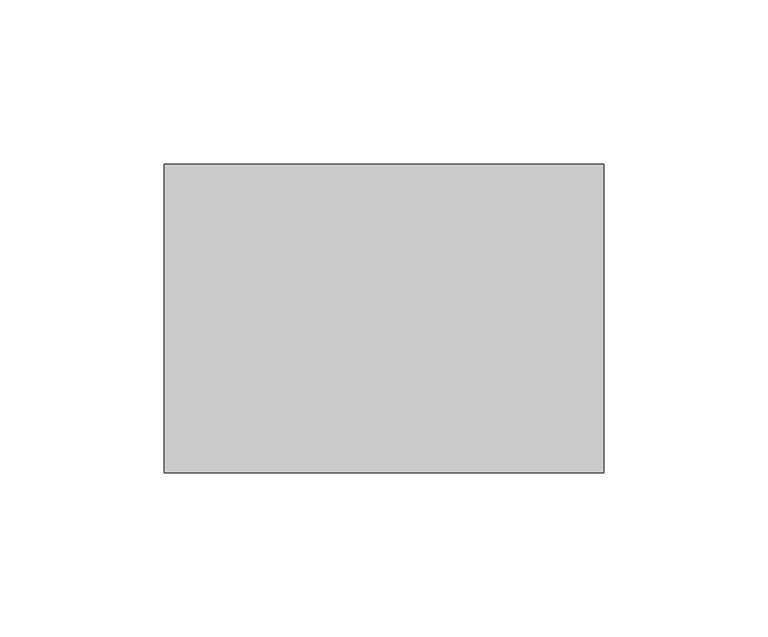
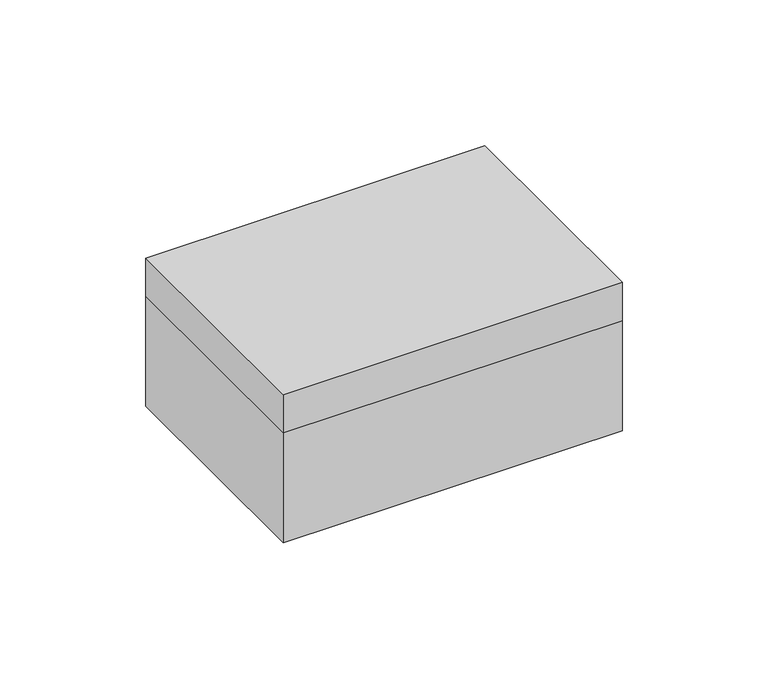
"""IFC4 building model written with IfcOpenShell, lengths in millimetres: cable carrier fitting geometry."""

from ifc_helpers import new_model, si_unit, origin, place, context, project, spatial, faceted_brep, source, transform, mapped, element, save


def cable_carrier_fitting_9cea8719(model_context):
    return source(origin(), model_context, "Body", "Brep", [
        faceted_brep([(67.0, 47.0, 62.0), (-67.0, 47.0, 62.0), (-67.0, -47.0, 62.0), (67.0, -47.0, 62.0), (-65.0, -45.0, 60.0), (-65.0, 45.0, 60.0), (65.0, 45.0, 60.0), (65.0, -45.0, 60.0), (67.0, 47.0, 46.0), (67.0, -47.0, 46.0), (-67.0, -47.0, 46.0), (-67.0, 47.0, 46.0), (-65.0, -45.0, 46.0), (65.0, -45.0, 46.0), (65.0, 45.0, 46.0), (-65.0, 45.0, 46.0)], [[[0, 1, 2, 3]], [[4, 5, 6, 7]], [[8, 9, 10, 11], [12, 13, 14, 15]], [[1, 0, 8, 11]], [[2, 1, 11, 10]], [[3, 2, 10, 9]], [[0, 3, 9, 8]], [[12, 15, 5, 4]], [[15, 14, 6, 5]], [[14, 13, 7, 6]], [[13, 12, 4, 7]]]),
        faceted_brep([(-65.0, -45.0, 2.0), (65.0, -45.0, 2.0), (65.0, 45.0, 2.0), (-65.0, 45.0, 2.0), (67.0, 47.0, 0.0), (67.0, -47.0, 0.0), (-67.0, -47.0, 0.0), (-67.0, 47.0, 0.0), (67.0, 47.0, 46.0), (-67.0, 47.0, 46.0), (-67.0, -47.0, 46.0), (67.0, -47.0, 46.0), (65.0, -45.0, 46.0), (-65.0, -45.0, 46.0), (-65.0, 45.0, 46.0), (65.0, 45.0, 46.0)], [[[0, 1, 2, 3]], [[4, 5, 6, 7]], [[8, 9, 10, 11], [12, 13, 14, 15]], [[9, 8, 4, 7]], [[10, 9, 7, 6]], [[11, 10, 6, 5]], [[8, 11, 5, 4]], [[13, 12, 1, 0]], [[14, 13, 0, 3]], [[15, 14, 3, 2]], [[12, 15, 2, 1]]]),
    ])


if __name__ == "__main__":
    model = new_model("IFC4")
    model_context = context("Model", 3, world=origin())
    ifc_project = project(units=[si_unit("LENGTHUNIT", "METRE", prefix="MILLI")], contexts=[model_context])
    site = spatial("IfcSite", under=ifc_project)
    building = spatial("IfcBuilding", under=site)
    placement = place(None, origin())
    cable_carrier_fitting_shape = cable_carrier_fitting_9cea8719(model_context)
    element("IfcCableCarrierFitting", 1, at=placement, inside=building, context=model_context, shape_type="MappedRepresentation", body=[
        mapped(cable_carrier_fitting_shape, transform((0.0, 0.0, 0.0), x_axis=(1.0, 0.0, 0.0), y_axis=(0.0, 1.0, 0.0), z_axis=(0.0, 0.0, 1.0))),
    ])
    save(model, "model.ifc")
